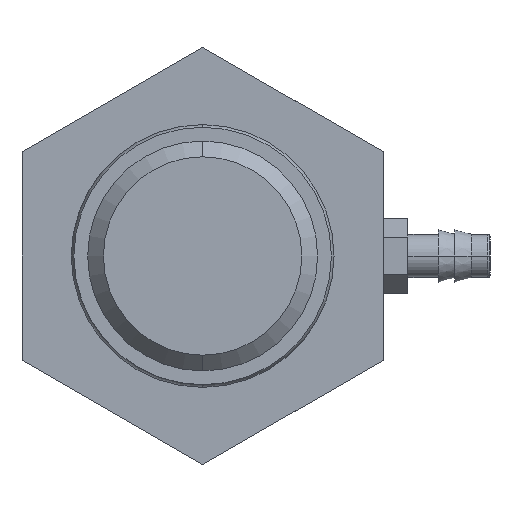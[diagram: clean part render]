
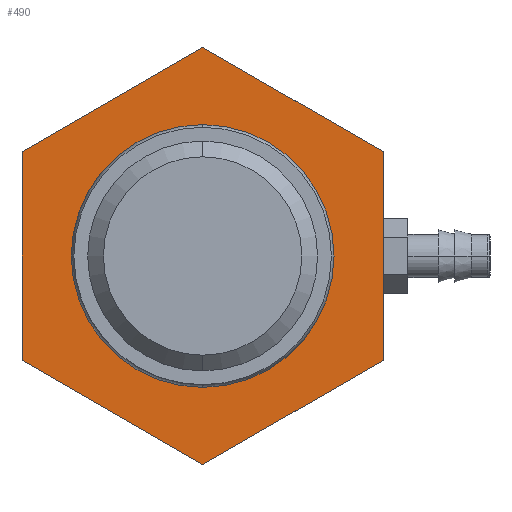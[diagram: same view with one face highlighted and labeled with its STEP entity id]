
A CAD part, left-side view. The second image highlights one B-rep face of the part: STEP entity #490.
In plain terms, the highlighted planar face has unit normal (-1, 0, 0).
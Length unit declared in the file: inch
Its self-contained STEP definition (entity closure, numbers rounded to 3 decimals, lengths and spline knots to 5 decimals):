
#203=DIRECTION('',(0.,0.866,-0.5));
#204=VECTOR('',#203,0.79386);
#205=CARTESIAN_POINT('',(-3.25,0.,0.79386));
#206=LINE('',#205,#204);
#207=DIRECTION('',(0.,0.866,0.5));
#208=VECTOR('',#207,0.79386);
#209=CARTESIAN_POINT('',(-3.25,-0.6875,0.39693));
#210=LINE('',#209,#208);
#211=DIRECTION('',(0.,0.,1.));
#212=VECTOR('',#211,0.79386);
#213=CARTESIAN_POINT('',(-3.25,-0.6875,-0.39693));
#214=LINE('',#213,#212);
#215=DIRECTION('',(0.,-0.866,0.5));
#216=VECTOR('',#215,0.79386);
#217=CARTESIAN_POINT('',(-3.25,0.,-0.79386));
#218=LINE('',#217,#216);
#219=DIRECTION('',(0.,-0.866,-0.5));
#220=VECTOR('',#219,0.79386);
#221=CARTESIAN_POINT('',(-3.25,0.6875,-0.39693));
#222=LINE('',#221,#220);
#223=DIRECTION('',(0.,0.,-1.));
#224=VECTOR('',#223,0.79386);
#225=CARTESIAN_POINT('',(-3.25,0.6875,0.39693));
#226=LINE('',#225,#224);
#227=CARTESIAN_POINT('',(-3.25,0.,0.));
#228=DIRECTION('',(1.,0.,0.));
#229=DIRECTION('',(0.,0.,1.));
#230=AXIS2_PLACEMENT_3D('',#227,#228,#229);
#232=CARTESIAN_POINT('',(-3.25,0.,0.));
#233=DIRECTION('',(1.,0.,0.));
#234=DIRECTION('',(0.,0.,-1.));
#235=AXIS2_PLACEMENT_3D('',#232,#233,#234);
#405=CARTESIAN_POINT('',(-3.25,0.,0.79386));
#406=CARTESIAN_POINT('',(-3.25,0.6875,0.39693));
#407=VERTEX_POINT('',#405);
#408=VERTEX_POINT('',#406);
#413=CARTESIAN_POINT('',(-3.25,0.6875,-0.39693));
#414=VERTEX_POINT('',#413);
#415=CARTESIAN_POINT('',(-3.25,-0.6875,0.39693));
#416=VERTEX_POINT('',#415);
#419=CARTESIAN_POINT('',(-3.25,0.,-0.79386));
#420=VERTEX_POINT('',#419);
#421=CARTESIAN_POINT('',(-3.25,-0.6875,-0.39693));
#422=VERTEX_POINT('',#421);
#429=CARTESIAN_POINT('',(-3.25,0.,-0.413));
#431=VERTEX_POINT('',#429);
#433=CARTESIAN_POINT('',(-3.25,0.,0.413));
#435=VERTEX_POINT('',#433);
#465=CARTESIAN_POINT('',(-3.25,0.,0.));
#466=DIRECTION('',(-1.,0.,0.));
#467=DIRECTION('',(0.,0.,1.));
#468=AXIS2_PLACEMENT_3D('',#465,#466,#467);
#469=PLANE('',#468);
#471=ORIENTED_EDGE('',*,*,#470,.F.);
#473=ORIENTED_EDGE('',*,*,#472,.F.);
#475=ORIENTED_EDGE('',*,*,#474,.F.);
#477=ORIENTED_EDGE('',*,*,#476,.F.);
#479=ORIENTED_EDGE('',*,*,#478,.F.);
#481=ORIENTED_EDGE('',*,*,#480,.F.);
#482=EDGE_LOOP('',(#471,#473,#475,#477,#479,#481));
#483=FACE_OUTER_BOUND('',#482,.F.);
#485=ORIENTED_EDGE('',*,*,#484,.F.);
#487=ORIENTED_EDGE('',*,*,#486,.F.);
#488=EDGE_LOOP('',(#485,#487));
#489=FACE_BOUND('',#488,.F.);
#231=CIRCLE('',#230,0.413);
#236=CIRCLE('',#235,0.413);
#470=EDGE_CURVE('',#407,#408,#206,.T.);
#472=EDGE_CURVE('',#416,#407,#210,.T.);
#474=EDGE_CURVE('',#422,#416,#214,.T.);
#476=EDGE_CURVE('',#420,#422,#218,.T.);
#478=EDGE_CURVE('',#414,#420,#222,.T.);
#480=EDGE_CURVE('',#408,#414,#226,.T.);
#484=EDGE_CURVE('',#435,#431,#231,.T.);
#486=EDGE_CURVE('',#431,#435,#236,.T.);
#490=ADVANCED_FACE('',(#483,#489),#469,.T.);
